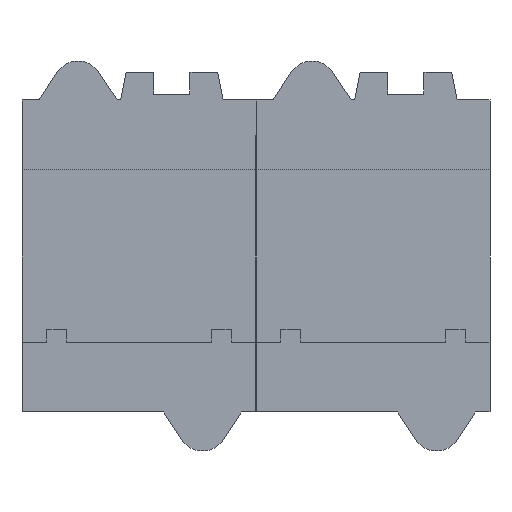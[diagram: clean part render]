
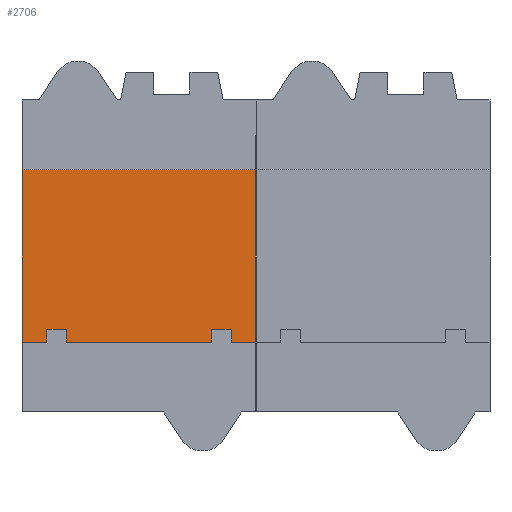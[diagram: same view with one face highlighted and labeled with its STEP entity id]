
A CAD part, front view. The second image highlights one B-rep face of the part: STEP entity #2706.
In plain terms, the highlighted planar face has unit normal (0, -1, 0).
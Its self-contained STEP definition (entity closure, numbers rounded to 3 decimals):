
#61 = LINE ( 'NONE', #7035, #11903 ) ;
#63 = ORIENTED_EDGE ( 'NONE', *, *, #6413, .F. ) ;
#822 = ORIENTED_EDGE ( 'NONE', *, *, #8710, .F. ) ;
#1123 = DIRECTION ( 'NONE',  ( 0., 0., -1. ) ) ;
#1220 = AXIS2_PLACEMENT_3D ( 'NONE', #12863, #2616, #10617 ) ;
#1448 = PLANE ( 'NONE',  #1220 ) ;
#2477 = DIRECTION ( 'NONE',  ( 0., 0., -1. ) ) ;
#2616 = DIRECTION ( 'NONE',  ( 0., 1., 0. ) ) ;
#2706 = ADVANCED_FACE ( 'NONE', ( #5801 ), #1448, .F. ) ;
#2710 = DIRECTION ( 'NONE',  ( -1., 0., 0. ) ) ;
#2970 = VECTOR ( 'NONE', #4076, 1000. ) ;
#3362 = VECTOR ( 'NONE', #2710, 1000. ) ;
#3986 = VERTEX_POINT ( 'NONE', #14691 ) ;
#4076 = DIRECTION ( 'NONE',  ( 1., 0., 0. ) ) ;
#4602 = EDGE_CURVE ( 'NONE', #13077, #3986, #5665, .T. ) ;
#5665 = LINE ( 'NONE', #6066, #3362 ) ;
#5801 = FACE_OUTER_BOUND ( 'NONE', #7367, .T. ) ;
#6066 = CARTESIAN_POINT ( 'NONE',  ( 0., 4., -17.65 ) ) ;
#6413 = EDGE_CURVE ( 'NONE', #9312, #10994, #7835, .T. ) ;
#6541 = CARTESIAN_POINT ( 'NONE',  ( 24., 4., -17.65 ) ) ;
#6836 = CARTESIAN_POINT ( 'NONE',  ( -24., 4., -32. ) ) ;
#7035 = CARTESIAN_POINT ( 'NONE',  ( 24., 4., 0. ) ) ;
#7367 = EDGE_LOOP ( 'NONE', ( #9305, #822, #63, #7403 ) ) ;
#7403 = ORIENTED_EDGE ( 'NONE', *, *, #12066, .T. ) ;
#7835 = LINE ( 'NONE', #14282, #2970 ) ;
#8137 = CARTESIAN_POINT ( 'NONE',  ( 24., 4., 17.65 ) ) ;
#8710 = EDGE_CURVE ( 'NONE', #10994, #13077, #61, .T. ) ;
#9305 = ORIENTED_EDGE ( 'NONE', *, *, #4602, .F. ) ;
#9312 = VERTEX_POINT ( 'NONE', #9509 ) ;
#9509 = CARTESIAN_POINT ( 'NONE',  ( -24., 4., 17.65 ) ) ;
#10617 = DIRECTION ( 'NONE',  ( 0., 0., 1. ) ) ;
#10994 = VERTEX_POINT ( 'NONE', #8137 ) ;
#11007 = VECTOR ( 'NONE', #1123, 1000. ) ;
#11358 = LINE ( 'NONE', #6836, #11007 ) ;
#11903 = VECTOR ( 'NONE', #2477, 1000. ) ;
#12066 = EDGE_CURVE ( 'NONE', #9312, #3986, #11358, .T. ) ;
#12863 = CARTESIAN_POINT ( 'NONE',  ( 0., 4., 0. ) ) ;
#13077 = VERTEX_POINT ( 'NONE', #6541 ) ;
#14282 = CARTESIAN_POINT ( 'NONE',  ( 0., 4., 17.65 ) ) ;
#14691 = CARTESIAN_POINT ( 'NONE',  ( -24., 4., -17.65 ) ) ;
